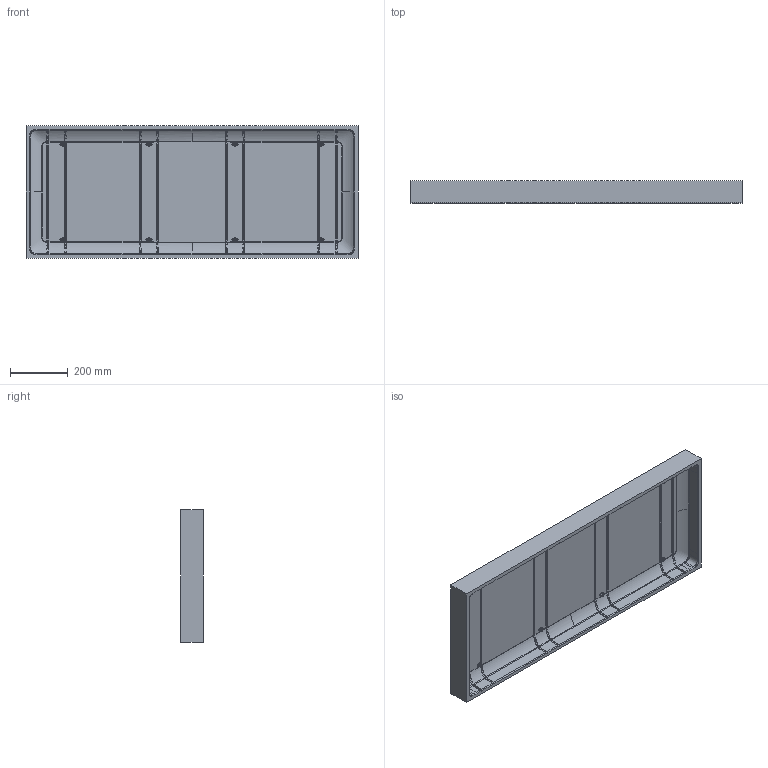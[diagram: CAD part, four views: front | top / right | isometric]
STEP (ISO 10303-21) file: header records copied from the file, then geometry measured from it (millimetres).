
FILE_DESCRIPTION (( 'STEP AP203' ), '1' );
FILE_NAME ('1745-931T-PID.STEP', '2020-02-05T01:13:06', ( '' ), ( '' ), 'SwSTEP 2.0', 'SolidWorks 2016', '' );
FILE_SCHEMA (( 'CONFIG_CONTROL_DESIGN' ));
Products named in the file (1): 1745-931T-PID
Bounding box: 1149 x 76.45 x 460.14 mm (x, y, z)
Volume: 10456820.5 mm3; surface area: 1453054.2 mm2
Topology: 1 solids, 1 shells, 1047 faces, 2524 edges, 1460 vertices
Faces by surface type: bspline 600, cylinder 200, plane 127, torus 64, cone 56
Entity records: 84334 total; most frequent: CARTESIAN_POINT 64553, ORIENTED_EDGE 4984, DIRECTION 3004, EDGE_CURVE 2492, VERTEX_POINT 1460, AXIS2_PLACEMENT_3D 1226, EDGE_LOOP 1060, FACE_OUTER_BOUND 1047
